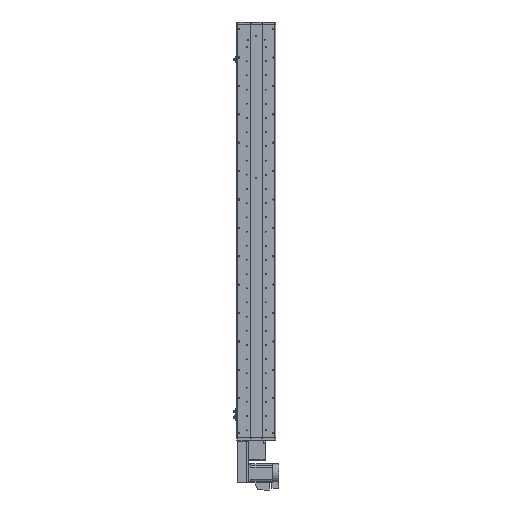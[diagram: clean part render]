
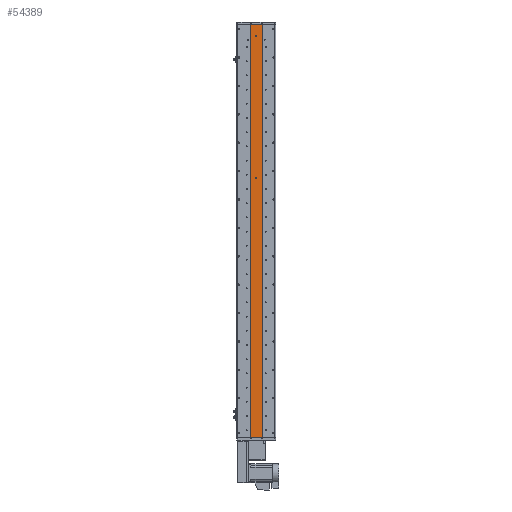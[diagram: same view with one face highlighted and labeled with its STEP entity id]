
A CAD part, front view. The second image highlights one B-rep face of the part: STEP entity #54389.
In plain terms, the highlighted planar face has unit normal (0, -1, 0).
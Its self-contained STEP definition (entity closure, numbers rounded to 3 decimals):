
#1801 = CARTESIAN_POINT ( 'NONE',  ( 0., 1., 826.5 ) ) ;
#2736 = VERTEX_POINT ( 'NONE', #44979 ) ;
#2808 = CARTESIAN_POINT ( 'NONE',  ( 0., 1., 823.5 ) ) ;
#4119 = LINE ( 'NONE', #20102, #44736 ) ;
#4732 = CARTESIAN_POINT ( 'NONE',  ( 0., 1., 223.5 ) ) ;
#4818 = DIRECTION ( 'NONE',  ( 0., -1., 0. ) ) ;
#6422 = DIRECTION ( 'NONE',  ( 1., 0., 0. ) ) ;
#7902 = AXIS2_PLACEMENT_3D ( 'NONE', #2808, #39847, #8151 ) ;
#8151 = DIRECTION ( 'NONE',  ( 0., 0., -1. ) ) ;
#9431 = EDGE_LOOP ( 'NONE', ( #17171, #49096, #48831, #12004 ) ) ;
#10063 = DIRECTION ( 'NONE',  ( 0., 0., -1. ) ) ;
#10142 = EDGE_CURVE ( 'NONE', #61341, #54700, #23079, .T. ) ;
#10888 = CARTESIAN_POINT ( 'NONE',  ( 0., 1., 223.5 ) ) ;
#11058 = AXIS2_PLACEMENT_3D ( 'NONE', #4732, #41801, #10063 ) ;
#12004 = ORIENTED_EDGE ( 'NONE', *, *, #31371, .T. ) ;
#14097 = EDGE_CURVE ( 'NONE', #54862, #20991, #49139, .T. ) ;
#14548 = AXIS2_PLACEMENT_3D ( 'NONE', #22146, #48811, #17039 ) ;
#14655 = AXIS2_PLACEMENT_3D ( 'NONE', #10888, #48034, #16257 ) ;
#15453 = CIRCLE ( 'NONE', #55216, 3. ) ;
#15554 = CARTESIAN_POINT ( 'NONE',  ( 25., 1., 873.5 ) ) ;
#15670 = LINE ( 'NONE', #15554, #42163 ) ;
#16257 = DIRECTION ( 'NONE',  ( 0., 0., -1. ) ) ;
#17039 = DIRECTION ( 'NONE',  ( 0., 0., 1. ) ) ;
#17048 = EDGE_CURVE ( 'NONE', #54700, #61341, #56628, .T. ) ;
#17171 = ORIENTED_EDGE ( 'NONE', *, *, #14097, .T. ) ;
#17196 = ORIENTED_EDGE ( 'NONE', *, *, #53200, .F. ) ;
#17350 = VERTEX_POINT ( 'NONE', #28997 ) ;
#19892 = EDGE_CURVE ( 'NONE', #57447, #2736, #15670, .T. ) ;
#20102 = CARTESIAN_POINT ( 'NONE',  ( 25., 1., 873.5 ) ) ;
#20991 = VERTEX_POINT ( 'NONE', #36253 ) ;
#22146 = CARTESIAN_POINT ( 'NONE',  ( 25., 1., 873.5 ) ) ;
#23079 = CIRCLE ( 'NONE', #14655, 3. ) ;
#24384 = FACE_BOUND ( 'NONE', #63621, .T. ) ;
#28997 = CARTESIAN_POINT ( 'NONE',  ( 0., 1., 820.5 ) ) ;
#29355 = EDGE_LOOP ( 'NONE', ( #62578, #43563 ) ) ;
#31371 = EDGE_CURVE ( 'NONE', #57447, #54862, #34161, .T. ) ;
#31642 = CIRCLE ( 'NONE', #7902, 3. ) ;
#33440 = CARTESIAN_POINT ( 'NONE',  ( -25., 1., -873.5 ) ) ;
#34161 = LINE ( 'NONE', #38127, #60743 ) ;
#35013 = VECTOR ( 'NONE', #6422, 1000. ) ;
#35389 = CARTESIAN_POINT ( 'NONE',  ( -25., 1., 873.5 ) ) ;
#36253 = CARTESIAN_POINT ( 'NONE',  ( 25., 1., -873.5 ) ) ;
#36556 = CARTESIAN_POINT ( 'NONE',  ( 0., 1., 823.5 ) ) ;
#38099 = PLANE ( 'NONE',  #14548 ) ;
#38127 = CARTESIAN_POINT ( 'NONE',  ( -25., 1., 873.5 ) ) ;
#39847 = DIRECTION ( 'NONE',  ( 0., -1., 0. ) ) ;
#41776 = EDGE_CURVE ( 'NONE', #65468, #17350, #31642, .T. ) ;
#41796 = CARTESIAN_POINT ( 'NONE',  ( 0., 1., 220.5 ) ) ;
#41801 = DIRECTION ( 'NONE',  ( 0., -1., 0. ) ) ;
#41864 = DIRECTION ( 'NONE',  ( 0., 0., -1. ) ) ;
#41951 = CARTESIAN_POINT ( 'NONE',  ( 0., 1., 226.5 ) ) ;
#42163 = VECTOR ( 'NONE', #57781, 1000. ) ;
#43563 = ORIENTED_EDGE ( 'NONE', *, *, #10142, .F. ) ;
#44736 = VECTOR ( 'NONE', #57242, 1000. ) ;
#44979 = CARTESIAN_POINT ( 'NONE',  ( 25., 1., 873.5 ) ) ;
#48034 = DIRECTION ( 'NONE',  ( 0., -1., 0. ) ) ;
#48633 = CARTESIAN_POINT ( 'NONE',  ( 25., 1., -873.5 ) ) ;
#48811 = DIRECTION ( 'NONE',  ( 0., 1., 0. ) ) ;
#48831 = ORIENTED_EDGE ( 'NONE', *, *, #19892, .F. ) ;
#48841 = DIRECTION ( 'NONE',  ( 0., 0., -1. ) ) ;
#49096 = ORIENTED_EDGE ( 'NONE', *, *, #63319, .F. ) ;
#49139 = LINE ( 'NONE', #48633, #35013 ) ;
#52574 = FACE_BOUND ( 'NONE', #29355, .T. ) ;
#53200 = EDGE_CURVE ( 'NONE', #17350, #65468, #15453, .T. ) ;
#54389 = ADVANCED_FACE ( 'NONE', ( #52574, #24384, #66700 ), #38099, .F. ) ;
#54700 = VERTEX_POINT ( 'NONE', #41796 ) ;
#54862 = VERTEX_POINT ( 'NONE', #33440 ) ;
#55216 = AXIS2_PLACEMENT_3D ( 'NONE', #36556, #4818, #41864 ) ;
#56628 = CIRCLE ( 'NONE', #11058, 3. ) ;
#57242 = DIRECTION ( 'NONE',  ( 0., 0., -1. ) ) ;
#57447 = VERTEX_POINT ( 'NONE', #35389 ) ;
#57781 = DIRECTION ( 'NONE',  ( 1., 0., 0. ) ) ;
#60743 = VECTOR ( 'NONE', #48841, 1000. ) ;
#61341 = VERTEX_POINT ( 'NONE', #41951 ) ;
#62471 = ORIENTED_EDGE ( 'NONE', *, *, #41776, .F. ) ;
#62578 = ORIENTED_EDGE ( 'NONE', *, *, #17048, .F. ) ;
#63319 = EDGE_CURVE ( 'NONE', #2736, #20991, #4119, .T. ) ;
#63621 = EDGE_LOOP ( 'NONE', ( #17196, #62471 ) ) ;
#65468 = VERTEX_POINT ( 'NONE', #1801 ) ;
#66700 = FACE_OUTER_BOUND ( 'NONE', #9431, .T. ) ;
